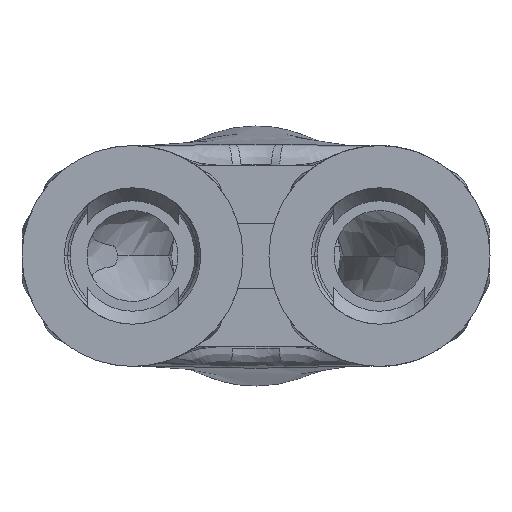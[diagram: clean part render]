
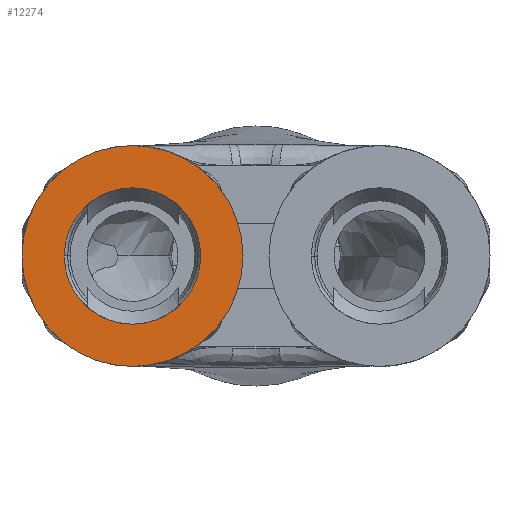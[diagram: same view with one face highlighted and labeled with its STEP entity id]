
A CAD part, front view. The second image highlights one B-rep face of the part: STEP entity #12274.
In plain terms, the highlighted planar face has unit normal (0, -1, 0) as drawn and (0, 1, 0) by its records, which use the part's own axes.
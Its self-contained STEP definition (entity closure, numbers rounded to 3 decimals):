
#58 = CARTESIAN_POINT ( 'NONE',  ( -2.282, 5.814, 0. ) ) ;
#270 = AXIS2_PLACEMENT_3D ( 'NONE', #13600, #5852, #14901 ) ;
#274 = CARTESIAN_POINT ( 'NONE',  ( -2.282, 5.814, -5.25 ) ) ;
#811 = ORIENTED_EDGE ( 'NONE', *, *, #2613, .T. ) ;
#984 = CARTESIAN_POINT ( 'NONE',  ( -2.282, 5.814, -8.5 ) ) ;
#1357 = DIRECTION ( 'NONE',  ( 0., 0., -1. ) ) ;
#2100 = VERTEX_POINT ( 'NONE', #9827 ) ;
#2129 = CIRCLE ( 'NONE', #13309, 5.25 ) ;
#2517 = AXIS2_PLACEMENT_3D ( 'NONE', #58, #9138, #1357 ) ;
#2613 = EDGE_CURVE ( 'NONE', #10638, #12435, #2129, .T. ) ;
#3934 = ORIENTED_EDGE ( 'NONE', *, *, #16040, .F. ) ;
#5197 = CIRCLE ( 'NONE', #2517, 8.5 ) ;
#5409 = EDGE_LOOP ( 'NONE', ( #6601, #3934 ) ) ;
#5660 = DIRECTION ( 'NONE',  ( 0., -1., 0. ) ) ;
#5852 = DIRECTION ( 'NONE',  ( 0., -1., 0. ) ) ;
#6082 = CARTESIAN_POINT ( 'NONE',  ( -2.282, 5.814, 0. ) ) ;
#6601 = ORIENTED_EDGE ( 'NONE', *, *, #7544, .F. ) ;
#6691 = AXIS2_PLACEMENT_3D ( 'NONE', #14738, #6989, #16033 ) ;
#6716 = AXIS2_PLACEMENT_3D ( 'NONE', #6082, #15127, #7377 ) ;
#6928 = FACE_BOUND ( 'NONE', #13386, .T. ) ;
#6989 = DIRECTION ( 'NONE',  ( 0., -1., 0. ) ) ;
#7268 = CARTESIAN_POINT ( 'NONE',  ( -2.282, 5.814, 5.25 ) ) ;
#7377 = DIRECTION ( 'NONE',  ( 0., 0., -1. ) ) ;
#7544 = EDGE_CURVE ( 'NONE', #10850, #2100, #8331, .T. ) ;
#8331 = CIRCLE ( 'NONE', #270, 8.5 ) ;
#9138 = DIRECTION ( 'NONE',  ( 0., -1., 0. ) ) ;
#9827 = CARTESIAN_POINT ( 'NONE',  ( -2.282, 5.814, 8.5 ) ) ;
#10404 = FACE_OUTER_BOUND ( 'NONE', #5409, .T. ) ;
#10638 = VERTEX_POINT ( 'NONE', #274 ) ;
#10850 = VERTEX_POINT ( 'NONE', #984 ) ;
#11929 = ORIENTED_EDGE ( 'NONE', *, *, #14686, .T. ) ;
#12274 = ADVANCED_FACE ( 'NONE', ( #10404, #6928 ), #15979, .F. ) ;
#12435 = VERTEX_POINT ( 'NONE', #7268 ) ;
#13309 = AXIS2_PLACEMENT_3D ( 'NONE', #13412, #5660, #14712 ) ;
#13386 = EDGE_LOOP ( 'NONE', ( #811, #11929 ) ) ;
#13412 = CARTESIAN_POINT ( 'NONE',  ( -2.282, 5.814, 0. ) ) ;
#13600 = CARTESIAN_POINT ( 'NONE',  ( -2.282, 5.814, 0. ) ) ;
#13959 = CIRCLE ( 'NONE', #6716, 5.25 ) ;
#14686 = EDGE_CURVE ( 'NONE', #12435, #10638, #13959, .T. ) ;
#14712 = DIRECTION ( 'NONE',  ( 0., 0., -1. ) ) ;
#14738 = CARTESIAN_POINT ( 'NONE',  ( -7.532, 5.814, 0. ) ) ;
#14901 = DIRECTION ( 'NONE',  ( 0., 0., -1. ) ) ;
#15127 = DIRECTION ( 'NONE',  ( 0., -1., 0. ) ) ;
#15979 = PLANE ( 'NONE',  #6691 ) ;
#16033 = DIRECTION ( 'NONE',  ( 0., 0., -1. ) ) ;
#16040 = EDGE_CURVE ( 'NONE', #2100, #10850, #5197, .T. ) ;
